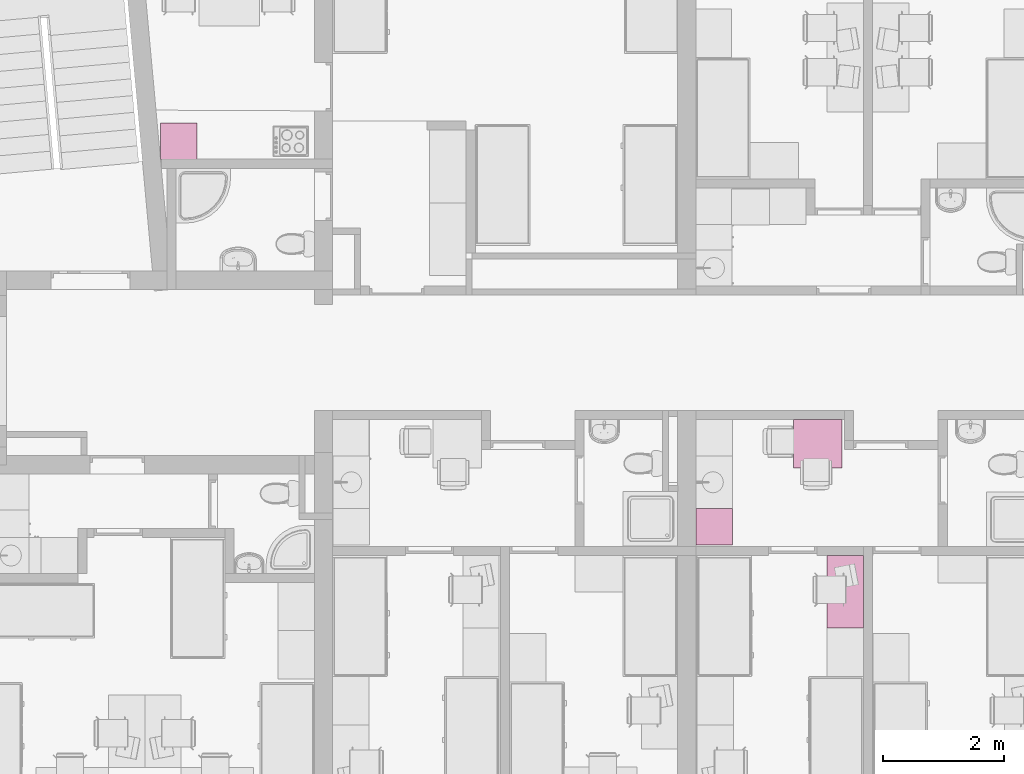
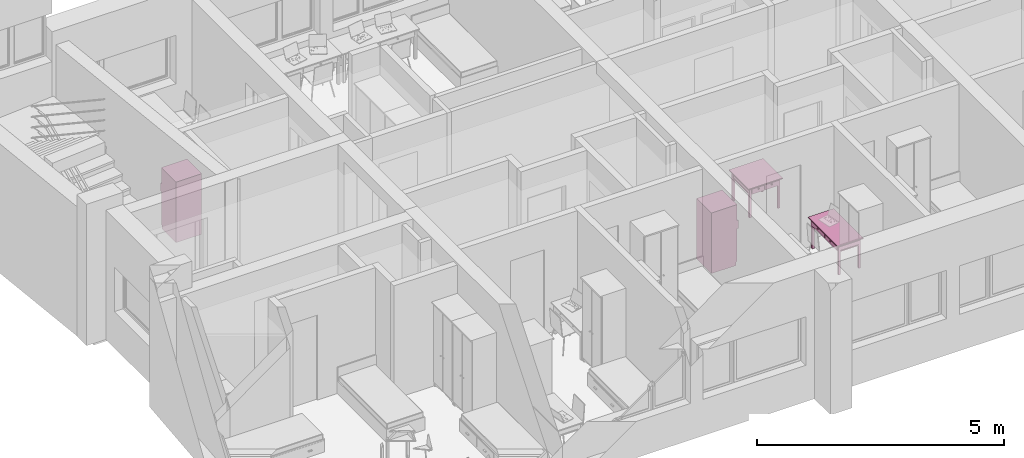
# One storey, part 65 of 165: 4 furnishings.
"""IFC2X3 building model written with IfcOpenShell, lengths in millimetres."""

from ifc_helpers import new_model, entity, si_unit, converted_unit, money_unit, direction, frame, origin_with_axes, place, context, subcontext, project, spatial, open_shell, faceted_brep, surface_model, source, transform, mapped, material, material_list, type_object, element, save


model = new_model("IFC2X3")

# Units and contexts
model_context = context("Model", 3, precision=1e-05, world=origin_with_axes(), true_north=direction((0.0, 1.0)))
body_context = subcontext(model_context, "Body", "Model", "MODEL_VIEW")
ifc_project = project(units=[si_unit("LENGTHUNIT", "METRE", prefix="MILLI"), si_unit("AREAUNIT", "SQUARE_METRE"), si_unit("VOLUMEUNIT", "CUBIC_METRE"), converted_unit("PLANEANGLEUNIT", "DEGREE", entity("IfcPlaneAngleMeasure", 0.0174532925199), si_unit("PLANEANGLEUNIT", "RADIAN"), dimensions=[0, 0, 0, 0, 0, 0, 0]), si_unit("SOLIDANGLEUNIT", "STERADIAN"), money_unit("USD"), converted_unit("TIMEUNIT", "Year", entity("IfcTimeMeasure", 31556926.0), si_unit("TIMEUNIT", "SECOND"), dimensions=[0, 0, 0, 0, 0, 0, 0]), si_unit("MASSUNIT", "GRAM"), si_unit("THERMODYNAMICTEMPERATUREUNIT", "DEGREE_CELSIUS"), si_unit("LUMINOUSINTENSITYUNIT", "LUMEN")], contexts=[model_context])

# Site, building, storey
site_placement = place(None, origin_with_axes())
site = spatial("IfcSite", under=ifc_project, at=site_placement, Name="Site", CompositionType="ELEMENT")
building_placement = place(site_placement, origin_with_axes())
building = spatial("IfcBuilding", under=site, at=building_placement, Name="Building", CompositionType="ELEMENT")
storey_placement = place(building_placement, frame((0.0, 0.0, 6300.0), z_axis=(0.0, 0.0, 1.0), x_axis=(1.0, 0.0, 0.0)))
storey = spatial("IfcBuildingStorey", under=building, at=storey_placement, Name="4KORRUS", CompositionType="ELEMENT", Elevation=6300.0)

# Furnishings
ifc_material = material(Name="Background")
ifc_material_list = material_list([ifc_material])
furnishing_element_type_1 = type_object("IfcFurnishingElementType", Name="Rectangular Table 01 19")
shared_shape_1 = source(origin_with_axes(), body_context, "Body", "Brep", [
    faceted_brep([(90.0, 40.0, 0.0), (40.0, 40.0, 0.0), (40.0, 90.0, 0.0), (90.0, 90.0, 0.0), (90.0, 40.0, 725.0), (40.0, 40.0, 725.0), (40.0, 90.0, 725.0), (90.0, 90.0, 725.0)], [[[0, 1, 2, 3]], [[1, 0, 4, 5]], [[2, 1, 5, 6]], [[3, 2, 6, 7]], [[0, 3, 7, 4]], [[5, 4, 7, 6]]]),
    faceted_brep([(1160.0, 40.0, 0.0), (1110.0, 40.0, 0.0), (1110.0, 90.0, 0.0), (1160.0, 90.0, 0.0), (1160.0, 40.0, 725.0), (1110.0, 40.0, 725.0), (1110.0, 90.0, 725.0), (1160.0, 90.0, 725.0)], [[[0, 1, 2, 3]], [[1, 0, 4, 5]], [[2, 1, 5, 6]], [[3, 2, 6, 7]], [[0, 3, 7, 4]], [[5, 4, 7, 6]]]),
    faceted_brep([(90.0, 510.0, 0.0), (40.0, 510.0, 0.0), (40.0, 560.0, 0.0), (90.0, 560.0, 0.0), (90.0, 510.0, 725.0), (40.0, 510.0, 725.0), (40.0, 560.0, 725.0), (90.0, 560.0, 725.0)], [[[0, 1, 2, 3]], [[1, 0, 4, 5]], [[2, 1, 5, 6]], [[3, 2, 6, 7]], [[0, 3, 7, 4]], [[5, 4, 7, 6]]]),
    faceted_brep([(1160.0, 510.0, 0.0), (1110.0, 510.0, 0.0), (1110.0, 560.0, 0.0), (1160.0, 560.0, 0.0), (1160.0, 510.0, 725.0), (1110.0, 510.0, 725.0), (1110.0, 560.0, 725.0), (1160.0, 560.0, 725.0)], [[[0, 1, 2, 3]], [[1, 0, 4, 5]], [[2, 1, 5, 6]], [[3, 2, 6, 7]], [[0, 3, 7, 4]], [[5, 4, 7, 6]]]),
    faceted_brep([(1160.0, 40.0, 565.0), (40.0, 40.0, 565.0), (40.0, 560.0, 565.0), (1160.0, 560.0, 565.0), (1160.0, 40.0, 585.0), (40.0, 40.0, 585.0), (40.0, 560.0, 585.0), (1160.0, 560.0, 585.0)], [[[0, 1, 2, 3]], [[1, 0, 4, 5]], [[2, 1, 5, 6]], [[3, 2, 6, 7]], [[0, 3, 7, 4]], [[5, 4, 7, 6]]]),
    faceted_brep([(1110.0, 52.5, 585.0), (90.0, 52.5, 585.0), (90.0, 77.5, 585.0), (1110.0, 77.5, 585.0), (1110.0, 52.5, 745.0), (90.0, 52.5, 745.0), (90.0, 77.5, 745.0), (1110.0, 77.5, 745.0)], [[[0, 1, 2, 3]], [[1, 0, 4, 5]], [[2, 1, 5, 6]], [[3, 2, 6, 7]], [[0, 3, 7, 4]], [[5, 4, 7, 6]]]),
    faceted_brep([(77.5, 90.0, 585.0), (52.5, 90.0, 585.0), (52.5, 510.0, 585.0), (77.5, 510.0, 585.0), (77.5, 90.0, 745.0), (52.5, 90.0, 745.0), (52.5, 510.0, 745.0), (77.5, 510.0, 745.0)], [[[0, 1, 2, 3]], [[1, 0, 4, 5]], [[2, 1, 5, 6]], [[3, 2, 6, 7]], [[0, 3, 7, 4]], [[5, 4, 7, 6]]]),
    faceted_brep([(90.0, 547.5, 585.0), (1110.0, 547.5, 585.0), (1110.0, 522.5, 585.0), (90.0, 522.5, 585.0), (90.0, 547.5, 745.0), (1110.0, 547.5, 745.0), (1110.0, 522.5, 745.0), (90.0, 522.5, 745.0)], [[[0, 1, 2, 3]], [[1, 0, 4, 5]], [[2, 1, 5, 6]], [[3, 2, 6, 7]], [[0, 3, 7, 4]], [[5, 4, 7, 6]]]),
    faceted_brep([(1122.5, 510.0, 585.0), (1147.5, 510.0, 585.0), (1147.5, 90.0, 585.0), (1122.5, 90.0, 585.0), (1122.5, 510.0, 745.0), (1147.5, 510.0, 745.0), (1147.5, 90.0, 745.0), (1122.5, 90.0, 745.0)], [[[0, 1, 2, 3]], [[1, 0, 4, 5]], [[2, 1, 5, 6]], [[3, 2, 6, 7]], [[0, 3, 7, 4]], [[5, 4, 7, 6]]]),
    faceted_brep([(597.5, 40.0, 585.0), (95.0, 40.0, 585.0), (95.0, 60.0, 585.0), (597.5, 60.0, 585.0), (597.5, 40.0, 745.0), (95.0, 40.0, 745.0), (95.0, 60.0, 745.0), (597.5, 60.0, 745.0)], [[[0, 1, 2, 3]], [[1, 0, 4, 5]], [[2, 1, 5, 6]], [[3, 2, 6, 7]], [[0, 3, 7, 4]], [[5, 4, 7, 6]]]),
    faceted_brep([(1105.0, 40.0, 585.0), (602.5, 40.0, 585.0), (602.5, 60.0, 585.0), (1105.0, 60.0, 585.0), (1105.0, 40.0, 745.0), (602.5, 40.0, 745.0), (602.5, 60.0, 745.0), (1105.0, 60.0, 745.0)], [[[0, 1, 2, 3]], [[1, 0, 4, 5]], [[2, 1, 5, 6]], [[3, 2, 6, 7]], [[0, 3, 7, 4]], [[5, 4, 7, 6]]]),
    faceted_brep([(354.91, 40.0, 660.0), (351.25, 40.0, 656.34), (346.25, 40.0, 655.0), (341.25, 40.0, 656.34), (337.59, 40.0, 660.0), (336.25, 40.0, 665.0), (337.59, 40.0, 670.0), (341.25, 40.0, 673.66), (346.25, 40.0, 675.0), (351.25, 40.0, 673.66), (354.91, 40.0, 670.0), (356.25, 40.0, 665.0), (354.91, 25.0, 660.0), (351.25, 25.0, 656.34), (346.25, 25.0, 655.0), (341.25, 25.0, 656.34), (337.59, 25.0, 660.0), (336.25, 25.0, 665.0), (337.59, 25.0, 670.0), (341.25, 25.0, 673.66), (346.25, 25.0, 675.0), (351.25, 25.0, 673.66), (354.91, 25.0, 670.0), (356.25, 25.0, 665.0)], [[[0, 1, 2, 3, 4, 5, 6, 7, 8, 9, 10, 11]], [[1, 0, 12, 13]], [[2, 1, 13, 14]], [[3, 2, 14, 15]], [[4, 3, 15, 16]], [[5, 4, 16, 17]], [[6, 5, 17, 18]], [[7, 6, 18, 19]], [[8, 7, 19, 20]], [[9, 8, 20, 21]], [[10, 9, 21, 22]], [[11, 10, 22, 23]], [[0, 11, 23, 12]], [[12, 23, 22, 21, 20, 19, 18, 17, 16, 15, 14, 13]]]),
    faceted_brep([(356.25, 12.01, 665.0), (346.25, 10.0, 665.0), (354.91, 12.01, 660.0), (354.91, 12.01, 670.0), (351.25, 12.01, 656.34), (363.571, 17.5, 665.0), (361.25, 17.5, 656.34), (351.25, 12.01, 673.66), (361.25, 17.5, 673.66), (346.25, 12.01, 655.0), (354.91, 17.5, 650.0), (366.25, 25.0, 665.0), (363.571, 25.0, 655.0), (346.25, 12.01, 675.0), (354.91, 17.5, 680.0), (363.571, 25.0, 675.0), (341.25, 12.01, 656.34), (346.25, 17.5, 647.679), (356.25, 25.0, 647.679), (346.25, 25.0, 645.0), (336.25, 25.0, 647.679), (328.929, 25.0, 655.0), (326.25, 25.0, 665.0), (328.929, 25.0, 675.0), (336.25, 25.0, 682.321), (346.25, 25.0, 685.0), (356.25, 25.0, 682.321), (341.25, 12.01, 673.66), (346.25, 17.5, 682.321), (337.59, 12.01, 660.0), (337.59, 17.5, 650.0), (331.25, 17.5, 656.34), (328.929, 17.5, 665.0), (331.25, 17.5, 673.66), (337.59, 17.5, 680.0), (337.59, 12.01, 670.0), (336.25, 12.01, 665.0)], [[[0, 1, 2]], [[3, 1, 0]], [[2, 1, 4]], [[5, 0, 2, 6]], [[7, 1, 3]], [[8, 3, 0, 5]], [[4, 1, 9]], [[6, 2, 4, 10]], [[11, 5, 6, 12]], [[13, 1, 7]], [[14, 7, 3, 8]], [[15, 8, 5, 11]], [[9, 1, 16]], [[10, 4, 9, 17]], [[12, 6, 10, 18]], [[12, 18, 19, 20, 21, 22, 23, 24, 25, 26, 15, 11]], [[27, 1, 13]], [[28, 13, 7, 14]], [[26, 14, 8, 15]], [[16, 1, 29]], [[17, 9, 16, 30]], [[18, 10, 17, 19]], [[19, 17, 30, 20]], [[20, 30, 31, 21]], [[21, 31, 32, 22]], [[22, 32, 33, 23]], [[23, 33, 34, 24]], [[24, 34, 28, 25]], [[25, 28, 14, 26]], [[35, 1, 27]], [[34, 27, 13, 28]], [[29, 1, 36]], [[30, 16, 29, 31]], [[31, 29, 36, 32]], [[32, 36, 35, 33]], [[33, 35, 27, 34]], [[36, 1, 35]]]),
    faceted_brep([(862.41, 40.0, 660.0), (858.75, 40.0, 656.34), (853.75, 40.0, 655.0), (848.75, 40.0, 656.34), (845.09, 40.0, 660.0), (843.75, 40.0, 665.0), (845.09, 40.0, 670.0), (848.75, 40.0, 673.66), (853.75, 40.0, 675.0), (858.75, 40.0, 673.66), (862.41, 40.0, 670.0), (863.75, 40.0, 665.0), (862.41, 25.0, 660.0), (858.75, 25.0, 656.34), (853.75, 25.0, 655.0), (848.75, 25.0, 656.34), (845.09, 25.0, 660.0), (843.75, 25.0, 665.0), (845.09, 25.0, 670.0), (848.75, 25.0, 673.66), (853.75, 25.0, 675.0), (858.75, 25.0, 673.66), (862.41, 25.0, 670.0), (863.75, 25.0, 665.0)], [[[0, 1, 2, 3, 4, 5, 6, 7, 8, 9, 10, 11]], [[1, 0, 12, 13]], [[2, 1, 13, 14]], [[3, 2, 14, 15]], [[4, 3, 15, 16]], [[5, 4, 16, 17]], [[6, 5, 17, 18]], [[7, 6, 18, 19]], [[8, 7, 19, 20]], [[9, 8, 20, 21]], [[10, 9, 21, 22]], [[11, 10, 22, 23]], [[0, 11, 23, 12]], [[12, 23, 22, 21, 20, 19, 18, 17, 16, 15, 14, 13]]]),
    faceted_brep([(863.75, 12.01, 665.0), (853.75, 10.0, 665.0), (862.41, 12.01, 660.0), (862.41, 12.01, 670.0), (858.75, 12.01, 656.34), (871.071, 17.5, 665.0), (868.75, 17.5, 656.34), (858.75, 12.01, 673.66), (868.75, 17.5, 673.66), (853.75, 12.01, 655.0), (862.41, 17.5, 650.0), (873.75, 25.0, 665.0), (871.071, 25.0, 655.0), (853.75, 12.01, 675.0), (862.41, 17.5, 680.0), (871.071, 25.0, 675.0), (848.75, 12.01, 656.34), (853.75, 17.5, 647.679), (863.75, 25.0, 647.679), (853.75, 25.0, 645.0), (843.75, 25.0, 647.679), (836.429, 25.0, 655.0), (833.75, 25.0, 665.0), (836.429, 25.0, 675.0), (843.75, 25.0, 682.321), (853.75, 25.0, 685.0), (863.75, 25.0, 682.321), (848.75, 12.01, 673.66), (853.75, 17.5, 682.321), (845.09, 12.01, 660.0), (845.09, 17.5, 650.0), (838.75, 17.5, 656.34), (836.429, 17.5, 665.0), (838.75, 17.5, 673.66), (845.09, 17.5, 680.0), (845.09, 12.01, 670.0), (843.75, 12.01, 665.0)], [[[0, 1, 2]], [[3, 1, 0]], [[2, 1, 4]], [[5, 0, 2, 6]], [[7, 1, 3]], [[8, 3, 0, 5]], [[4, 1, 9]], [[6, 2, 4, 10]], [[11, 5, 6, 12]], [[13, 1, 7]], [[14, 7, 3, 8]], [[15, 8, 5, 11]], [[9, 1, 16]], [[10, 4, 9, 17]], [[12, 6, 10, 18]], [[12, 18, 19, 20, 21, 22, 23, 24, 25, 26, 15, 11]], [[27, 1, 13]], [[28, 13, 7, 14]], [[26, 14, 8, 15]], [[16, 1, 29]], [[17, 9, 16, 30]], [[18, 10, 17, 19]], [[19, 17, 30, 20]], [[20, 30, 31, 21]], [[21, 31, 32, 22]], [[22, 32, 33, 23]], [[23, 33, 34, 24]], [[24, 34, 28, 25]], [[25, 28, 14, 26]], [[35, 1, 27]], [[34, 27, 13, 28]], [[29, 1, 36]], [[30, 16, 29, 31]], [[31, 29, 36, 32]], [[32, 36, 35, 33]], [[33, 35, 27, 34]], [[36, 1, 35]]]),
    faceted_brep([(1200.0, 0.0, 725.0), (0.0, 0.0, 725.0), (0.0, 600.0, 725.0), (1200.0, 600.0, 725.0), (1200.0, 0.0, 750.0), (0.0, 0.0, 750.0), (0.0, 600.0, 750.0), (1200.0, 600.0, 750.0)], [[[0, 1, 2, 3]], [[1, 0, 4, 5]], [[2, 1, 5, 6]], [[3, 2, 6, 7]], [[0, 3, 7, 4]], [[5, 4, 7, 6]]]),
])
furnishing_1_placement = place(storey_placement, frame((-39820.2967033, -15439.2398994, 0.0), z_axis=(0.0, 0.0, 1.0), x_axis=(0.0, -1.0, 0.0)))
element("IfcFurnishingElement", 1, at=furnishing_1_placement, inside=storey, type_object=furnishing_element_type_1, material=ifc_material_list, Name="FU - 011", context=body_context, shape_type="MappedRepresentation", body=[
    mapped(shared_shape_1, transform((0.0, 0.0, 0.0))),
])
shared_shape_2 = source(origin_with_axes(), body_context, "Body", "Brep", [
    faceted_brep([(90.0, 40.0, 0.0), (40.0, 40.0, 0.0), (40.0, 90.0, 0.0), (90.0, 90.0, 0.0), (90.0, 40.0, 725.0), (40.0, 40.0, 725.0), (40.0, 90.0, 725.0), (90.0, 90.0, 725.0)], [[[0, 1, 2, 3]], [[1, 0, 4, 5]], [[2, 1, 5, 6]], [[3, 2, 6, 7]], [[0, 3, 7, 4]], [[5, 4, 7, 6]]]),
    faceted_brep([(760.0, 40.0, 0.0), (710.0, 40.0, 0.0), (710.0, 90.0, 0.0), (760.0, 90.0, 0.0), (760.0, 40.0, 725.0), (710.0, 40.0, 725.0), (710.0, 90.0, 725.0), (760.0, 90.0, 725.0)], [[[0, 1, 2, 3]], [[1, 0, 4, 5]], [[2, 1, 5, 6]], [[3, 2, 6, 7]], [[0, 3, 7, 4]], [[5, 4, 7, 6]]]),
    faceted_brep([(90.0, 710.0, 0.0), (40.0, 710.0, 0.0), (40.0, 760.0, 0.0), (90.0, 760.0, 0.0), (90.0, 710.0, 725.0), (40.0, 710.0, 725.0), (40.0, 760.0, 725.0), (90.0, 760.0, 725.0)], [[[0, 1, 2, 3]], [[1, 0, 4, 5]], [[2, 1, 5, 6]], [[3, 2, 6, 7]], [[0, 3, 7, 4]], [[5, 4, 7, 6]]]),
    faceted_brep([(760.0, 710.0, 0.0), (710.0, 710.0, 0.0), (710.0, 760.0, 0.0), (760.0, 760.0, 0.0), (760.0, 710.0, 725.0), (710.0, 710.0, 725.0), (710.0, 760.0, 725.0), (760.0, 760.0, 725.0)], [[[0, 1, 2, 3]], [[1, 0, 4, 5]], [[2, 1, 5, 6]], [[3, 2, 6, 7]], [[0, 3, 7, 4]], [[5, 4, 7, 6]]]),
    faceted_brep([(760.0, 40.0, 565.0), (40.0, 40.0, 565.0), (40.0, 760.0, 565.0), (760.0, 760.0, 565.0), (760.0, 40.0, 585.0), (40.0, 40.0, 585.0), (40.0, 760.0, 585.0), (760.0, 760.0, 585.0)], [[[0, 1, 2, 3]], [[1, 0, 4, 5]], [[2, 1, 5, 6]], [[3, 2, 6, 7]], [[0, 3, 7, 4]], [[5, 4, 7, 6]]]),
    faceted_brep([(710.0, 52.5, 585.0), (90.0, 52.5, 585.0), (90.0, 77.5, 585.0), (710.0, 77.5, 585.0), (710.0, 52.5, 745.0), (90.0, 52.5, 745.0), (90.0, 77.5, 745.0), (710.0, 77.5, 745.0)], [[[0, 1, 2, 3]], [[1, 0, 4, 5]], [[2, 1, 5, 6]], [[3, 2, 6, 7]], [[0, 3, 7, 4]], [[5, 4, 7, 6]]]),
    faceted_brep([(77.5, 90.0, 585.0), (52.5, 90.0, 585.0), (52.5, 710.0, 585.0), (77.5, 710.0, 585.0), (77.5, 90.0, 745.0), (52.5, 90.0, 745.0), (52.5, 710.0, 745.0), (77.5, 710.0, 745.0)], [[[0, 1, 2, 3]], [[1, 0, 4, 5]], [[2, 1, 5, 6]], [[3, 2, 6, 7]], [[0, 3, 7, 4]], [[5, 4, 7, 6]]]),
    faceted_brep([(90.0, 747.5, 585.0), (710.0, 747.5, 585.0), (710.0, 722.5, 585.0), (90.0, 722.5, 585.0), (90.0, 747.5, 745.0), (710.0, 747.5, 745.0), (710.0, 722.5, 745.0), (90.0, 722.5, 745.0)], [[[0, 1, 2, 3]], [[1, 0, 4, 5]], [[2, 1, 5, 6]], [[3, 2, 6, 7]], [[0, 3, 7, 4]], [[5, 4, 7, 6]]]),
    faceted_brep([(722.5, 710.0, 585.0), (747.5, 710.0, 585.0), (747.5, 90.0, 585.0), (722.5, 90.0, 585.0), (722.5, 710.0, 745.0), (747.5, 710.0, 745.0), (747.5, 90.0, 745.0), (722.5, 90.0, 745.0)], [[[0, 1, 2, 3]], [[1, 0, 4, 5]], [[2, 1, 5, 6]], [[3, 2, 6, 7]], [[0, 3, 7, 4]], [[5, 4, 7, 6]]]),
    faceted_brep([(397.5, 40.0, 585.0), (95.0, 40.0, 585.0), (95.0, 60.0, 585.0), (397.5, 60.0, 585.0), (397.5, 40.0, 745.0), (95.0, 40.0, 745.0), (95.0, 60.0, 745.0), (397.5, 60.0, 745.0)], [[[0, 1, 2, 3]], [[1, 0, 4, 5]], [[2, 1, 5, 6]], [[3, 2, 6, 7]], [[0, 3, 7, 4]], [[5, 4, 7, 6]]]),
    faceted_brep([(705.0, 40.0, 585.0), (402.5, 40.0, 585.0), (402.5, 60.0, 585.0), (705.0, 60.0, 585.0), (705.0, 40.0, 745.0), (402.5, 40.0, 745.0), (402.5, 60.0, 745.0), (705.0, 60.0, 745.0)], [[[0, 1, 2, 3]], [[1, 0, 4, 5]], [[2, 1, 5, 6]], [[3, 2, 6, 7]], [[0, 3, 7, 4]], [[5, 4, 7, 6]]]),
    faceted_brep([(254.91, 40.0, 660.0), (251.25, 40.0, 656.34), (246.25, 40.0, 655.0), (241.25, 40.0, 656.34), (237.59, 40.0, 660.0), (236.25, 40.0, 665.0), (237.59, 40.0, 670.0), (241.25, 40.0, 673.66), (246.25, 40.0, 675.0), (251.25, 40.0, 673.66), (254.91, 40.0, 670.0), (256.25, 40.0, 665.0), (254.91, 25.0, 660.0), (251.25, 25.0, 656.34), (246.25, 25.0, 655.0), (241.25, 25.0, 656.34), (237.59, 25.0, 660.0), (236.25, 25.0, 665.0), (237.59, 25.0, 670.0), (241.25, 25.0, 673.66), (246.25, 25.0, 675.0), (251.25, 25.0, 673.66), (254.91, 25.0, 670.0), (256.25, 25.0, 665.0)], [[[0, 1, 2, 3, 4, 5, 6, 7, 8, 9, 10, 11]], [[1, 0, 12, 13]], [[2, 1, 13, 14]], [[3, 2, 14, 15]], [[4, 3, 15, 16]], [[5, 4, 16, 17]], [[6, 5, 17, 18]], [[7, 6, 18, 19]], [[8, 7, 19, 20]], [[9, 8, 20, 21]], [[10, 9, 21, 22]], [[11, 10, 22, 23]], [[0, 11, 23, 12]], [[12, 23, 22, 21, 20, 19, 18, 17, 16, 15, 14, 13]]]),
    faceted_brep([(256.25, 12.01, 665.0), (246.25, 10.0, 665.0), (254.91, 12.01, 660.0), (254.91, 12.01, 670.0), (251.25, 12.01, 656.34), (263.571, 17.5, 665.0), (261.25, 17.5, 656.34), (251.25, 12.01, 673.66), (261.25, 17.5, 673.66), (246.25, 12.01, 655.0), (254.91, 17.5, 650.0), (266.25, 25.0, 665.0), (263.571, 25.0, 655.0), (246.25, 12.01, 675.0), (254.91, 17.5, 680.0), (263.571, 25.0, 675.0), (241.25, 12.01, 656.34), (246.25, 17.5, 647.679), (256.25, 25.0, 647.679), (246.25, 25.0, 645.0), (236.25, 25.0, 647.679), (228.929, 25.0, 655.0), (226.25, 25.0, 665.0), (228.929, 25.0, 675.0), (236.25, 25.0, 682.321), (246.25, 25.0, 685.0), (256.25, 25.0, 682.321), (241.25, 12.01, 673.66), (246.25, 17.5, 682.321), (237.59, 12.01, 660.0), (237.59, 17.5, 650.0), (231.25, 17.5, 656.34), (228.929, 17.5, 665.0), (231.25, 17.5, 673.66), (237.59, 17.5, 680.0), (237.59, 12.01, 670.0), (236.25, 12.01, 665.0)], [[[0, 1, 2]], [[3, 1, 0]], [[2, 1, 4]], [[5, 0, 2, 6]], [[7, 1, 3]], [[8, 3, 0, 5]], [[4, 1, 9]], [[6, 2, 4, 10]], [[11, 5, 6, 12]], [[13, 1, 7]], [[14, 7, 3, 8]], [[15, 8, 5, 11]], [[9, 1, 16]], [[10, 4, 9, 17]], [[12, 6, 10, 18]], [[12, 18, 19, 20, 21, 22, 23, 24, 25, 26, 15, 11]], [[27, 1, 13]], [[28, 13, 7, 14]], [[26, 14, 8, 15]], [[16, 1, 29]], [[17, 9, 16, 30]], [[18, 10, 17, 19]], [[19, 17, 30, 20]], [[20, 30, 31, 21]], [[21, 31, 32, 22]], [[22, 32, 33, 23]], [[23, 33, 34, 24]], [[24, 34, 28, 25]], [[25, 28, 14, 26]], [[35, 1, 27]], [[34, 27, 13, 28]], [[29, 1, 36]], [[30, 16, 29, 31]], [[31, 29, 36, 32]], [[32, 36, 35, 33]], [[33, 35, 27, 34]], [[36, 1, 35]]]),
    faceted_brep([(562.41, 40.0, 660.0), (558.75, 40.0, 656.34), (553.75, 40.0, 655.0), (548.75, 40.0, 656.34), (545.09, 40.0, 660.0), (543.75, 40.0, 665.0), (545.09, 40.0, 670.0), (548.75, 40.0, 673.66), (553.75, 40.0, 675.0), (558.75, 40.0, 673.66), (562.41, 40.0, 670.0), (563.75, 40.0, 665.0), (562.41, 25.0, 660.0), (558.75, 25.0, 656.34), (553.75, 25.0, 655.0), (548.75, 25.0, 656.34), (545.09, 25.0, 660.0), (543.75, 25.0, 665.0), (545.09, 25.0, 670.0), (548.75, 25.0, 673.66), (553.75, 25.0, 675.0), (558.75, 25.0, 673.66), (562.41, 25.0, 670.0), (563.75, 25.0, 665.0)], [[[0, 1, 2, 3, 4, 5, 6, 7, 8, 9, 10, 11]], [[1, 0, 12, 13]], [[2, 1, 13, 14]], [[3, 2, 14, 15]], [[4, 3, 15, 16]], [[5, 4, 16, 17]], [[6, 5, 17, 18]], [[7, 6, 18, 19]], [[8, 7, 19, 20]], [[9, 8, 20, 21]], [[10, 9, 21, 22]], [[11, 10, 22, 23]], [[0, 11, 23, 12]], [[12, 23, 22, 21, 20, 19, 18, 17, 16, 15, 14, 13]]]),
    faceted_brep([(563.75, 12.01, 665.0), (553.75, 10.0, 665.0), (562.41, 12.01, 660.0), (562.41, 12.01, 670.0), (558.75, 12.01, 656.34), (571.071, 17.5, 665.0), (568.75, 17.5, 656.34), (558.75, 12.01, 673.66), (568.75, 17.5, 673.66), (553.75, 12.01, 655.0), (562.41, 17.5, 650.0), (573.75, 25.0, 665.0), (571.071, 25.0, 655.0), (553.75, 12.01, 675.0), (562.41, 17.5, 680.0), (571.071, 25.0, 675.0), (548.75, 12.01, 656.34), (553.75, 17.5, 647.679), (563.75, 25.0, 647.679), (553.75, 25.0, 645.0), (543.75, 25.0, 647.679), (536.429, 25.0, 655.0), (533.75, 25.0, 665.0), (536.429, 25.0, 675.0), (543.75, 25.0, 682.321), (553.75, 25.0, 685.0), (563.75, 25.0, 682.321), (548.75, 12.01, 673.66), (553.75, 17.5, 682.321), (545.09, 12.01, 660.0), (545.09, 17.5, 650.0), (538.75, 17.5, 656.34), (536.429, 17.5, 665.0), (538.75, 17.5, 673.66), (545.09, 17.5, 680.0), (545.09, 12.01, 670.0), (543.75, 12.01, 665.0)], [[[0, 1, 2]], [[3, 1, 0]], [[2, 1, 4]], [[5, 0, 2, 6]], [[7, 1, 3]], [[8, 3, 0, 5]], [[4, 1, 9]], [[6, 2, 4, 10]], [[11, 5, 6, 12]], [[13, 1, 7]], [[14, 7, 3, 8]], [[15, 8, 5, 11]], [[9, 1, 16]], [[10, 4, 9, 17]], [[12, 6, 10, 18]], [[12, 18, 19, 20, 21, 22, 23, 24, 25, 26, 15, 11]], [[27, 1, 13]], [[28, 13, 7, 14]], [[26, 14, 8, 15]], [[16, 1, 29]], [[17, 9, 16, 30]], [[18, 10, 17, 19]], [[19, 17, 30, 20]], [[20, 30, 31, 21]], [[21, 31, 32, 22]], [[22, 32, 33, 23]], [[23, 33, 34, 24]], [[24, 34, 28, 25]], [[25, 28, 14, 26]], [[35, 1, 27]], [[34, 27, 13, 28]], [[29, 1, 36]], [[30, 16, 29, 31]], [[31, 29, 36, 32]], [[32, 36, 35, 33]], [[33, 35, 27, 34]], [[36, 1, 35]]]),
    faceted_brep([(800.0, 0.0, 725.0), (0.0, 0.0, 725.0), (0.0, 800.0, 725.0), (800.0, 800.0, 725.0), (800.0, 0.0, 750.0), (0.0, 0.0, 750.0), (0.0, 800.0, 750.0), (800.0, 800.0, 750.0)], [[[0, 1, 2, 3]], [[1, 0, 4, 5]], [[2, 1, 5, 6]], [[3, 2, 6, 7]], [[0, 3, 7, 4]], [[5, 4, 7, 6]]]),
])
furnishing_2_placement = place(storey_placement, frame((-40375.9294234, -13989.2398994, 0.0), z_axis=(0.0, 0.0, 1.0), x_axis=(1.0, 0.0, 0.0)))
element("IfcFurnishingElement", 2, at=furnishing_2_placement, inside=storey, type_object=furnishing_element_type_1, material=ifc_material_list, Name="FU - 011", context=body_context, shape_type="MappedRepresentation", body=[
    mapped(shared_shape_2, transform((0.0, 0.0, 0.0))),
])
furnishing_element_type_2 = type_object("IfcFurnishingElementType", Name="Refrigerator 19")
shared_shape_3 = source(origin_with_axes(), body_context, "Body", "SurfaceModel", [
    faceted_brep([(0.0, 0.0, 1475.0), (600.0, 0.0, 1475.0), (600.0, 0.0, 1500.0), (0.0, 0.0, 1500.0), (0.0, 600.0, 1475.0), (600.0, 600.0, 1475.0), (600.0, 600.0, 1500.0), (0.0, 600.0, 1500.0)], [[[0, 1, 2, 3]], [[0, 4, 5, 1]], [[1, 5, 6, 2]], [[3, 2, 6, 7]], [[4, 0, 3, 7]], [[5, 4, 7, 6]]]),
    faceted_brep([(0.0, 65.0, 0.0), (600.0, 65.0, 0.0), (600.0, 65.0, 1475.0), (0.0, 65.0, 1475.0), (0.0, 600.0, 0.0), (600.0, 600.0, 0.0), (600.0, 600.0, 1475.0), (0.0, 600.0, 1475.0)], [[[0, 1, 2, 3]], [[0, 4, 5, 1]], [[1, 5, 6, 2]], [[3, 2, 6, 7]], [[4, 0, 3, 7]], [[5, 4, 7, 6]]]),
    faceted_brep([(0.0, 30.0, 0.0), (600.0, 30.0, 0.0), (600.0, 30.0, 90.0), (0.0, 30.0, 90.0), (0.0, 60.0, 0.0), (600.0, 60.0, 0.0), (600.0, 60.0, 90.0), (0.0, 60.0, 90.0)], [[[0, 1, 2, 3]], [[0, 4, 5, 1]], [[1, 5, 6, 2]], [[3, 2, 6, 7]], [[4, 0, 3, 7]], [[5, 4, 7, 6]]]),
    faceted_brep([(0.0, 60.0, 90.0), (600.0, 60.0, 90.0), (600.0, 0.0, 90.0), (0.0, 0.0, 90.0), (0.0, 60.0, 1474.5), (600.0, 60.0, 1474.5), (600.0, 0.0, 1474.5), (0.0, 0.0, 1474.5)], [[[0, 1, 2, 3]], [[0, 4, 5, 1]], [[1, 5, 6, 2]], [[3, 2, 6, 7]], [[4, 0, 3, 7]], [[5, 4, 7, 6]]]),
    surface_model("IfcShellBasedSurfaceModel", [(600.0, -30.0, 900.0), (600.0, -30.0, 1100.0), (600.0, 0.0, 1100.0), (600.0, 0.0, 900.0)], [open_shell([[[0, 1, 2, 3]]])]),
    surface_model("IfcShellBasedSurfaceModel", [(600.0, -30.0, 900.0), (600.0, -30.0, 1100.0), (570.0, -30.0, 1100.0), (570.0, -30.0, 900.0)], [open_shell([[[0, 1, 2, 3]]])]),
])
furnishing_3_placement = place(storey_placement, frame((-50234.8956426, -8293.5660247, 0.0), z_axis=(0.0, 0.0, 1.0), x_axis=(-1.0, 0.0, 0.0)))
element("IfcFurnishingElement", 3, at=furnishing_3_placement, inside=storey, type_object=furnishing_element_type_2, material=ifc_material_list, Name="FU - 007", context=body_context, shape_type="MappedRepresentation", body=[
    mapped(shared_shape_3, transform((0.0, 0.0, 0.0))),
])
shared_shape_4 = source(origin_with_axes(), body_context, "Body", "SurfaceModel", [
    faceted_brep([(0.0, 0.0, 1475.0), (0.0, 0.0, 1500.0), (-600.0, 0.0, 1500.0), (-600.0, 0.0, 1475.0), (0.0, 600.0, 1475.0), (0.0, 600.0, 1500.0), (-600.0, 600.0, 1500.0), (-600.0, 600.0, 1475.0)], [[[0, 1, 2, 3]], [[4, 5, 1, 0]], [[1, 5, 6, 2]], [[3, 2, 6, 7]], [[0, 3, 7, 4]], [[7, 6, 5, 4]]]),
    faceted_brep([(0.0, 65.0, 0.0), (0.0, 65.0, 1475.0), (-600.0, 65.0, 1475.0), (-600.0, 65.0, 0.0), (0.0, 600.0, 0.0), (0.0, 600.0, 1475.0), (-600.0, 600.0, 1475.0), (-600.0, 600.0, 0.0)], [[[0, 1, 2, 3]], [[4, 5, 1, 0]], [[1, 5, 6, 2]], [[3, 2, 6, 7]], [[0, 3, 7, 4]], [[7, 6, 5, 4]]]),
    faceted_brep([(0.0, 30.0, 0.0), (0.0, 30.0, 90.0), (-600.0, 30.0, 90.0), (-600.0, 30.0, 0.0), (0.0, 60.0, 0.0), (0.0, 60.0, 90.0), (-600.0, 60.0, 90.0), (-600.0, 60.0, 0.0)], [[[0, 1, 2, 3]], [[4, 5, 1, 0]], [[1, 5, 6, 2]], [[3, 2, 6, 7]], [[0, 3, 7, 4]], [[7, 6, 5, 4]]]),
    faceted_brep([(0.0, 60.0, 90.0), (0.0, 0.0, 90.0), (-600.0, 0.0, 90.0), (-600.0, 60.0, 90.0), (0.0, 60.0, 1474.5), (0.0, 0.0, 1474.5), (-600.0, 0.0, 1474.5), (-600.0, 60.0, 1474.5)], [[[0, 1, 2, 3]], [[4, 5, 1, 0]], [[1, 5, 6, 2]], [[3, 2, 6, 7]], [[0, 3, 7, 4]], [[7, 6, 5, 4]]]),
    surface_model("IfcShellBasedSurfaceModel", [(-600.0, -30.0, 900.0), (-600.0, 0.0, 900.0), (-600.0, 0.0, 1100.0), (-600.0, -30.0, 1100.0)], [open_shell([[[0, 1, 2, 3]]])]),
    surface_model("IfcShellBasedSurfaceModel", [(-600.0, -30.0, 900.0), (-570.0, -30.0, 900.0), (-570.0, -30.0, 1100.0), (-600.0, -30.0, 1100.0)], [open_shell([[[0, 1, 2, 3]]])]),
])
furnishing_4_placement = place(storey_placement, frame((-41384.008308, -14664.7705299, 0.0), z_axis=(0.0, 0.0, 1.0), x_axis=(0.0, 1.0, 0.0)))
element("IfcFurnishingElement", 4, at=furnishing_4_placement, inside=storey, type_object=furnishing_element_type_2, material=ifc_material_list, Name="FU - 007", context=body_context, shape_type="MappedRepresentation", body=[
    mapped(shared_shape_4, transform((0.0, 0.0, 0.0))),
])

save(model, "model.ifc")
